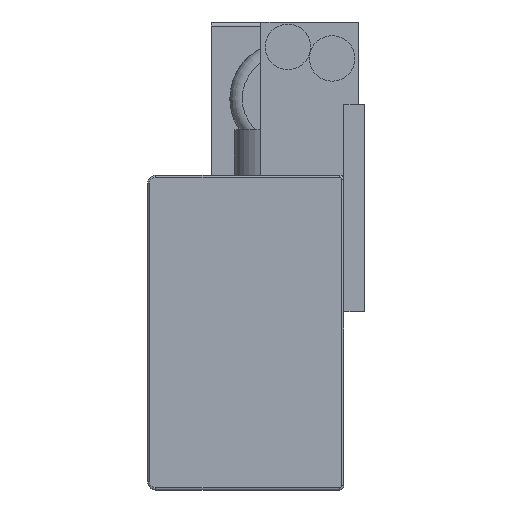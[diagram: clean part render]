
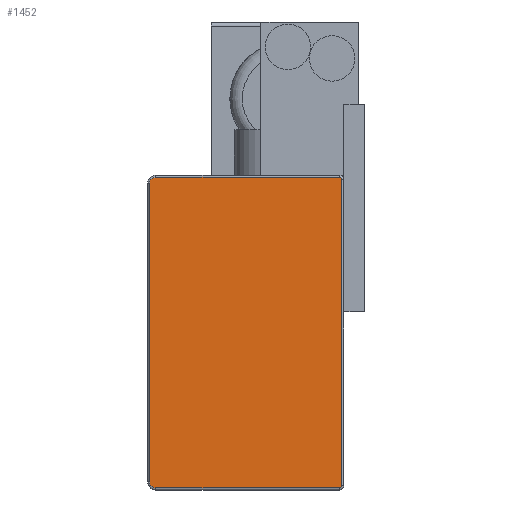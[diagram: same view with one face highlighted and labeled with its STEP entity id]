
A CAD part, left-side view. The second image highlights one B-rep face of the part: STEP entity #1452.
In plain terms, the highlighted planar face has unit normal (-1, 0, 0).
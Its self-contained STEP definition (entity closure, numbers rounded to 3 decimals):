
#46=PLANE('',#1597);
#98=CIRCLE('',#1555,0.5);
#104=CIRCLE('',#1564,0.5);
#123=CIRCLE('',#1598,1.5);
#124=CIRCLE('',#1599,1.5);
#306=ORIENTED_EDGE('',*,*,#619,.T.);
#307=ORIENTED_EDGE('',*,*,#677,.T.);
#308=ORIENTED_EDGE('',*,*,#678,.T.);
#309=ORIENTED_EDGE('',*,*,#679,.T.);
#310=ORIENTED_EDGE('',*,*,#623,.T.);
#311=ORIENTED_EDGE('',*,*,#632,.T.);
#312=ORIENTED_EDGE('',*,*,#627,.T.);
#313=ORIENTED_EDGE('',*,*,#621,.T.);
#619=EDGE_CURVE('',#812,#811,#938,.T.);
#621=EDGE_CURVE('',#813,#812,#98,.T.);
#623=EDGE_CURVE('',#814,#815,#939,.T.);
#627=EDGE_CURVE('',#818,#813,#941,.T.);
#632=EDGE_CURVE('',#815,#818,#104,.T.);
#677=EDGE_CURVE('',#811,#851,#123,.T.);
#678=EDGE_CURVE('',#851,#852,#969,.F.);
#679=EDGE_CURVE('',#852,#814,#124,.T.);
#811=VERTEX_POINT('',#2251);
#812=VERTEX_POINT('',#2253);
#813=VERTEX_POINT('',#2257);
#814=VERTEX_POINT('',#2261);
#815=VERTEX_POINT('',#2262);
#818=VERTEX_POINT('',#2270);
#851=VERTEX_POINT('',#2368);
#852=VERTEX_POINT('',#2370);
#938=LINE('',#2252,#1076);
#939=LINE('',#2260,#1077);
#941=LINE('',#2269,#1079);
#969=LINE('',#2369,#1107);
#1076=VECTOR('',#1794,1000.);
#1077=VECTOR('',#1805,1000.);
#1079=VECTOR('',#1813,1000.);
#1107=VECTOR('',#1917,1000.);
#1217=EDGE_LOOP('',(#306,#307,#308,#309,#310,#311,#312,#313));
#1323=FACE_BOUND('',#1217,.T.);
#1452=ADVANCED_FACE('',(#1323),#46,.T.);
#1555=AXIS2_PLACEMENT_3D('',#2256,#1799,#1800);
#1564=AXIS2_PLACEMENT_3D('',#2277,#1822,#1823);
#1597=AXIS2_PLACEMENT_3D('',#2366,#1913,#1914);
#1598=AXIS2_PLACEMENT_3D('',#2367,#1915,#1916);
#1599=AXIS2_PLACEMENT_3D('',#2371,#1918,#1919);
#1794=DIRECTION('',(0.,1.,0.));
#1799=DIRECTION('',(-1.,0.,0.));
#1800=DIRECTION('',(0.,0.,1.));
#1805=DIRECTION('',(0.,-1.,0.));
#1813=DIRECTION('',(0.,0.,1.));
#1822=DIRECTION('',(-1.,0.,0.));
#1823=DIRECTION('',(0.,0.,1.));
#1913=DIRECTION('',(-1.,0.,0.));
#1914=DIRECTION('',(0.,0.,1.));
#1915=DIRECTION('',(-1.,0.,0.));
#1916=DIRECTION('',(0.,0.,1.));
#1917=DIRECTION('',(0.,0.,1.));
#1918=DIRECTION('',(-1.,0.,0.));
#1919=DIRECTION('',(0.,0.,1.));
#2251=CARTESIAN_POINT('',(-609.6,45.4,37.5));
#2252=CARTESIAN_POINT('',(-609.6,34.,37.5));
#2253=CARTESIAN_POINT('',(-609.6,1.,37.5));
#2256=CARTESIAN_POINT('',(-609.6,1.,37.));
#2257=CARTESIAN_POINT('',(-609.6,0.5,37.));
#2260=CARTESIAN_POINT('',(-609.6,34.,-37.5));
#2261=CARTESIAN_POINT('',(-609.6,45.4,-37.5));
#2262=CARTESIAN_POINT('',(-609.6,1.,-37.5));
#2269=CARTESIAN_POINT('',(-609.6,0.5,38.));
#2270=CARTESIAN_POINT('',(-609.6,0.5,-37.));
#2277=CARTESIAN_POINT('',(-609.6,1.,-37.));
#2366=CARTESIAN_POINT('',(-609.6,34.,38.));
#2367=CARTESIAN_POINT('',(-609.6,45.4,36.));
#2368=CARTESIAN_POINT('',(-609.6,46.9,36.));
#2369=CARTESIAN_POINT('',(-609.6,46.9,38.));
#2370=CARTESIAN_POINT('',(-609.6,46.9,-36.));
#2371=CARTESIAN_POINT('',(-609.6,45.4,-36.));
